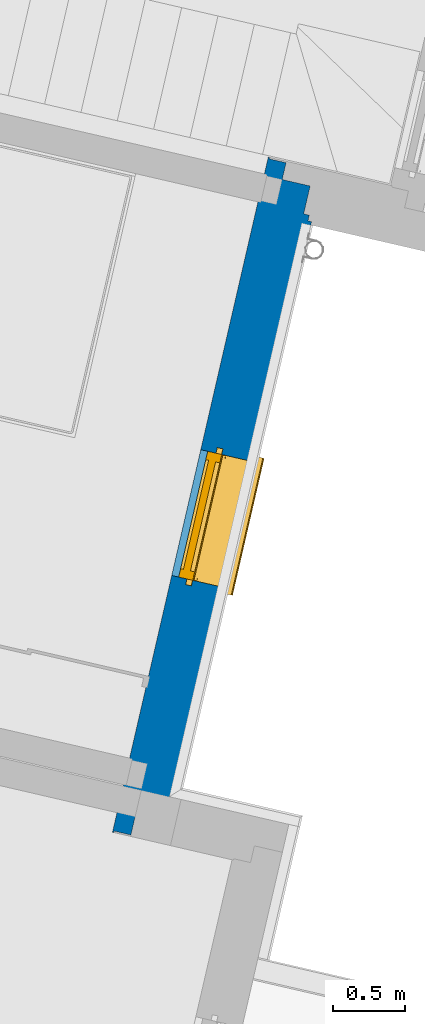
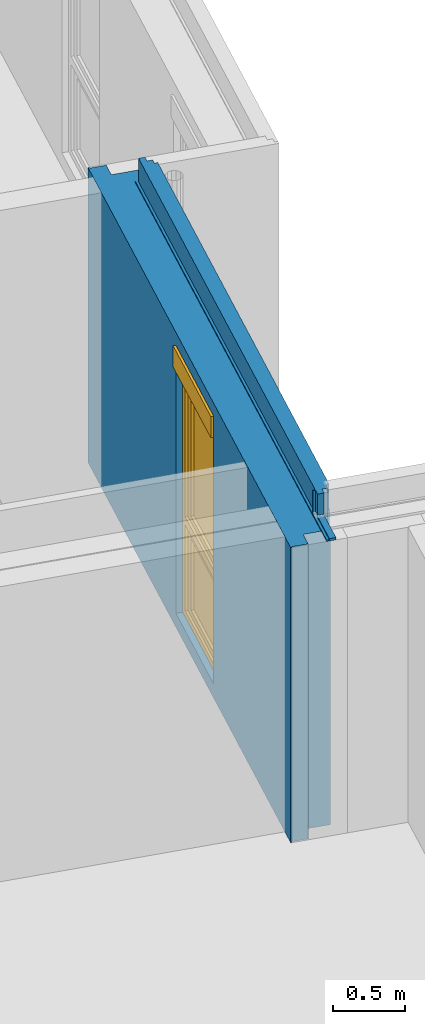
# One storey, part 16 of 62: 1 wall, 1 window, 1 opening.
"""IFC2X3 building model written with IfcOpenShell, lengths in metres."""

from ifc_helpers import new_model, entity, si_unit, converted_unit, derived_unit, money_unit, direction, frame, origin_with_axes, place, context, subcontext, project, spatial, open_shell, faceted_brep, surface_model, source, transform, mapped, material, material_list, type_object, element, fill, save


model = new_model("IFC2X3")

# Units and contexts
model_context = context("Model", 3, precision=1e-05, world=origin_with_axes(), true_north=direction((0.0, 1.0)))
body_context = subcontext(model_context, "Body", "Model", "MODEL_VIEW")
ifc_project = project(units=[si_unit("LENGTHUNIT", "METRE"), si_unit("AREAUNIT", "SQUARE_METRE"), si_unit("VOLUMEUNIT", "CUBIC_METRE"), converted_unit("PLANEANGLEUNIT", "DEGREE", entity("IfcPlaneAngleMeasure", 0.0174532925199), si_unit("PLANEANGLEUNIT", "RADIAN"), dimensions=[0, 0, 0, 0, 0, 0, 0]), si_unit("SOLIDANGLEUNIT", "STERADIAN"), money_unit("EUR"), converted_unit("TIMEUNIT", "Year", entity("IfcTimeMeasure", 31556926.0), si_unit("TIMEUNIT", "SECOND"), dimensions=[0, 0, 1, 0, 0, 0, 0]), si_unit("MASSUNIT", "GRAM", prefix="KILO"), si_unit("THERMODYNAMICTEMPERATUREUNIT", "DEGREE_CELSIUS"), si_unit("LUMINOUSINTENSITYUNIT", "LUMEN"), si_unit("ENERGYUNIT", "JOULE", prefix="MEGA"), derived_unit("THERMALCONDUCTANCEUNIT", [(si_unit("POWERUNIT", "WATT"), 1), (si_unit("LENGTHUNIT", "METRE"), -1), (si_unit("THERMODYNAMICTEMPERATUREUNIT", "KELVIN"), -1)]), derived_unit("SPECIFICHEATCAPACITYUNIT", [(si_unit("ENERGYUNIT", "JOULE"), 1), (si_unit("MASSUNIT", "GRAM", prefix="KILO"), -1), (si_unit("THERMODYNAMICTEMPERATUREUNIT", "KELVIN"), -1)]), derived_unit("MASSDENSITYUNIT", [(si_unit("MASSUNIT", "GRAM", prefix="KILO"), 1), (si_unit("VOLUMEUNIT", "CUBIC_METRE"), -1)])], contexts=[model_context])

# Site, building, storey
site_placement = place(None, origin_with_axes())
site = spatial("IfcSite", under=ifc_project, at=site_placement, Name="Site", CompositionType="ELEMENT")
building_placement = place(site_placement, origin_with_axes())
building = spatial("IfcBuilding", under=site, at=building_placement, Name="Bâtiment", CompositionType="ELEMENT")
storey_placement = place(building_placement, frame((0.0, 0.0, 8.16), z_axis=(0.0, 0.0, 1.0), x_axis=(1.0, 0.0, 0.0)))
storey = spatial("IfcBuildingStorey", under=building, at=storey_placement, Name="R+3", CompositionType="ELEMENT", Elevation=8.16)

# Wall, opening, window
ifc_material_1 = material(Name="Finition ext - Bardage bois")
ifc_material_2 = material(Name="Bois - Lattage")
ifc_material_3 = material(Name="Béton cellulaire")
ifc_material_4 = material(Name="Mortier")
ifc_material_5 = material(Name="Isolation - Polystyrène expansé")
ifc_material_6 = material(Name="Bloc ELITHERM")
ifc_material_7 = material(Name="Isolation - Polystyrène extrudé")
ifc_material_8 = material(Name="Finition int - Plaque de plâtre")
ifc_material_list = material_list([ifc_material_1, ifc_material_2, ifc_material_3, ifc_material_4, ifc_material_5, ifc_material_6, ifc_material_7, ifc_material_8])
wall_type = type_object("IfcWallType", Name="Mur ALKERN + planelle 21 BARDAGE courant 395 x 2720", PredefinedType="USERDEFINED")
wall_placement = place(storey_placement, frame((-1.11213586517, 6.59897523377, 0.0), z_axis=(0.0, 0.0, 1.0), x_axis=(-0.224876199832, -0.974387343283, 0.0)))
wall = element("IfcWall", 1, at=wall_placement, inside=storey, type_object=wall_type, material=ifc_material_list, Name="Mue bloc ALKERN isolé", ObjectType="SOLIDWALL", context=body_context, shape_type="Brep", body=[
    faceted_brep([(1.73344371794, 0.01, 0.12), (1.73344371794, 0.01, 0.06), (1.73344371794, 0.035, 0.06), (1.73344371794, 0.035, 0.12), (1.73344371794, 0.035, 2.22), (1.73344371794, 0.01, 2.22), (0.00999998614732, 0.01, 6.81930956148e-10), (4.10100000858, 0.01, 0.0), (4.10100000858, 0.01, 2.72), (0.00999998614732, 0.01, 2.72), (2.63344371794, 0.01, 2.22), (2.63344371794, 0.01, 0.12), (2.63344371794, 0.01, 0.06), (2.63344371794, 0.035, 0.06), (4.09100005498, 0.035, 2.50999999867), (4.10100000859, 0.035, 2.50999999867), (4.10100000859, 0.035, 0.0), (0.00999998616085, 0.035, 7.28007876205e-10), (0.00999998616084, 0.035, 2.72), (4.09100005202, 0.035, 2.72), (2.63344371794, 0.035, 0.12), (2.63344371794, 0.035, 2.22), (4.10100000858, 0.0200002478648, 2.50999999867), (4.10100000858, 0.0200002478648, 2.72), (4.09100005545, 0.0200002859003, 2.72), (4.09100005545, 0.0200002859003, 2.50999999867)], [[[0, 1, 2, 3, 4, 5]], [[6, 7, 8, 9], [1, 0, 5, 10, 11, 12]], [[13, 2, 1, 12]], [[14, 15, 16, 17, 18, 19], [13, 20, 21, 4, 3, 2]], [[21, 10, 5, 4]], [[7, 6, 17, 16]], [[22, 23, 8, 7, 16, 15]], [[23, 24, 19, 18, 9, 8]], [[18, 17, 6, 9]], [[20, 13, 12, 11, 10, 21]], [[25, 22, 15, 14]], [[24, 25, 14, 19]], [[22, 25, 24, 23]]]),
    faceted_brep([(1.73344371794, -0.0300000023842, 0.12), (1.73344371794, -0.0300000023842, 0.06), (1.73344371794, 0.00999999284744, 0.06), (1.73344371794, 0.00999999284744, 0.12), (1.73344371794, 0.00999999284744, 2.22), (1.73344371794, -0.0300000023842, 2.22), (-0.0300000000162, -0.0300000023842, 6.08208594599e-10), (4.14099999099, -0.0300000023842, 0.0), (4.14099999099, -0.0300000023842, 2.72), (-0.0300000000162, -0.0300000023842, 2.72), (2.63344371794, -0.0300000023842, 2.22), (2.63344371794, -0.0300000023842, 0.12), (2.63344371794, -0.0300000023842, 0.06), (2.63344371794, 0.00999999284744, 0.06), (4.140999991, 0.00999999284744, 0.0), (-0.0299999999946, 0.00999999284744, 6.81930956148e-10), (-0.0299999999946, 0.00999999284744, 2.72), (4.140999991, 0.00999999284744, 2.72), (2.63344371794, 0.00999999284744, 0.12), (2.63344371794, 0.00999999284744, 2.22)], [[[0, 1, 2, 3, 4, 5]], [[6, 7, 8, 9], [1, 0, 5, 10, 11, 12]], [[13, 2, 1, 12]], [[14, 15, 16, 17], [13, 18, 19, 4, 3, 2]], [[19, 10, 5, 4]], [[7, 6, 15, 14]], [[8, 7, 14, 17]], [[17, 16, 9, 8]], [[16, 15, 6, 9]], [[18, 13, 12, 11, 10, 19]]]),
    faceted_brep([(4.18899999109, -0.0779999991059, 2.72), (4.1889999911, -0.03, 2.72), (-0.0780000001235, -0.03, 2.72), (-0.0780000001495, -0.0779999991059, 2.72), (4.1889999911, -0.03, 2.53999999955), (4.18899999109, -0.0779999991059, 2.53999999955), (4.14099999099, -0.03, 2.54), (4.14099999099, -0.03, 2.53), (4.20899999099, -0.03, 2.53), (4.4710000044, -0.03, 2.53000000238), (4.4710000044, -0.03, 2.52000000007), (-0.0780000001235, -0.03, 2.51999999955), (-0.0780000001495, -0.0779999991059, 2.51999999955), (4.4710000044, -0.0779999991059, 2.52000000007), (4.4710000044, -0.0779999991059, 2.53000000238), (4.20899999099, -0.0779999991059, 2.53), (4.14099999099, -0.0779999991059, 2.53), (4.14099999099, -0.0779999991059, 2.54)], [[[0, 1, 2, 3]], [[4, 1, 0, 5]], [[1, 4, 6, 7, 8, 9, 10, 11, 2]], [[3, 2, 11, 12]], [[5, 0, 3, 12, 13, 14, 15, 16, 17]], [[4, 5, 17, 6]], [[7, 6, 17, 16]], [[8, 7, 16, 15]], [[8, 15, 14, 9]], [[13, 10, 9, 14]], [[12, 11, 10, 13]]]),
    faceted_brep([(4.4710000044, -0.098, 2.52000000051), (4.4710000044, -0.03, 2.52000000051), (-0.0980000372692, -0.03, 2.52000002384), (-0.098000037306, -0.098, 2.52000002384), (4.4710000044, -0.03, 2.5100000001), (4.4710000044, -0.098, 2.5100000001), (-0.0980000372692, -0.03, 2.51000000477), (-0.098000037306, -0.098, 2.51000000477)], [[[0, 1, 2, 3]], [[4, 1, 0, 5]], [[1, 4, 6, 2]], [[2, 6, 7, 3]], [[5, 0, 3, 7]], [[4, 5, 7, 6]]]),
    faceted_brep([(4.14099995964, -0.0780000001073, 2.54), (4.1409999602, -0.098000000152, 2.54), (4.1409999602, -0.098000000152, 2.53), (4.14099995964, -0.0780000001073, 2.53), (4.14099995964, -0.0780000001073, 2.72), (4.1409999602, -0.098000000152, 2.72), (4.13099999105, -0.098000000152, 2.72), (4.13099998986, -0.098000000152, 2.52000000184), (4.1409999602, -0.098000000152, 2.52000000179), (4.14099995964, -0.0780000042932, 2.52000000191), (4.13099998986, -0.07800000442, 2.52000000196), (4.13099999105, -0.0780000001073, 2.72)], [[[0, 1, 2, 3]], [[0, 4, 5, 1]], [[1, 5, 6, 7, 8, 2]], [[9, 3, 2, 8]], [[4, 0, 3, 9, 10, 11]], [[5, 4, 11, 6]], [[6, 11, 10, 7]], [[9, 8, 7, 10]]]),
    faceted_brep([(1.73344371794, -0.229999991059, 0.12), (1.73344371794, -0.229999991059, 0.06), (1.73344371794, -0.03, 0.06), (1.73344371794, -0.03, 0.12), (1.73344371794, -0.03, 2.22), (1.73344371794, -0.18, 2.22), (1.73344371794, -0.18, 2.4), (1.73344371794, -0.229999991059, 2.4), (1.73344371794, -0.229999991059, 2.22), (4.34099997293, -0.229999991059, 0.0), (4.34099997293, -0.229999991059, 2.50999999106), (-0.230000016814, -0.229999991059, 2.51000000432), (-0.230000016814, -0.229999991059, 2.39596786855e-10), (2.63344371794, -0.229999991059, 2.4), (2.63344371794, -0.229999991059, 2.22), (2.63344371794, -0.229999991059, 0.12), (2.63344371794, -0.229999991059, 0.06), (2.63344371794, -0.03, 0.06), (4.34099997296, -0.03, 2.50999999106), (4.34099997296, -0.03, 0.0), (-0.230000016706, -0.03, 6.08208594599e-10), (-0.230000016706, -0.03, 2.51000000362), (2.63344371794, -0.03, 0.12), (2.63344371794, -0.03, 2.22), (2.63344371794, -0.18, 2.22), (2.63344371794, -0.18, 2.4), (4.34099997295, -0.0979999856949, 2.50999999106), (-0.230000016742, -0.0979999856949, 2.51000000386)], [[[0, 1, 2, 3, 4, 5, 6, 7, 8]], [[9, 10, 11, 12], [1, 0, 8, 7, 13, 14, 15, 16]], [[17, 2, 1, 16]], [[18, 19, 20, 21], [17, 22, 23, 4, 3, 2]], [[5, 4, 23, 24]], [[24, 25, 6, 5]], [[7, 6, 25, 13]], [[10, 9, 19, 18, 26]], [[10, 26, 27, 11]], [[12, 11, 27, 21, 20]], [[19, 9, 12, 20]], [[22, 17, 16, 15, 14, 13, 25, 24, 23]], [[26, 18, 21, 27]]]),
    faceted_brep([(1.73344371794, -0.251, 0.12), (1.73344371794, -0.251, 0.06), (1.73344371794, -0.230000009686, 0.06), (1.73344371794, -0.230000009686, 0.12), (1.73344371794, -0.230000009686, 2.22), (1.73344371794, -0.230000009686, 2.4), (1.73344371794, -0.350000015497, 2.4), (1.73344371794, -0.350000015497, 2.22), (1.73344371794, -0.350000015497, 0.12), (2.63344371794, -0.251, 0.12), (2.63344371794, -0.251, 0.06), (2.63344371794, -0.230000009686, 0.06), (-0.350000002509, -0.230000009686, 2.39596786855e-10), (-0.350000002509, -0.230000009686, 2.51000000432), (4.46100000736, -0.230000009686, 2.50999999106), (4.46100000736, -0.230000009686, 0.0), (2.63344371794, -0.230000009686, 0.12), (2.63344371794, -0.230000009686, 2.22), (2.63344371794, -0.230000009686, 2.4), (2.63344371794, -0.350000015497, 2.4), (-0.350000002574, -0.350000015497, 2.51000000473), (-0.350000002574, -0.350000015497, 0.0), (4.46100000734, -0.350000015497, 0.0), (4.46100000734, -0.350000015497, 2.50999999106), (2.63344371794, -0.350000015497, 2.22), (2.63344371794, -0.350000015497, 0.12)], [[[0, 1, 2, 3, 4, 5, 6, 7, 8]], [[0, 9, 10, 1]], [[11, 2, 1, 10]], [[12, 13, 14, 15], [11, 16, 17, 18, 5, 4, 3, 2]], [[18, 19, 6, 5]], [[20, 21, 22, 23], [8, 7, 6, 19, 24, 25]], [[9, 0, 8, 25]], [[16, 11, 10, 9, 25, 24, 19, 18, 17]], [[12, 21, 20, 13]], [[13, 20, 23, 14]], [[23, 22, 15, 14]], [[21, 12, 15, 22]]]),
    faceted_brep([(4.47100000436, -0.350000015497, 0.0), (-0.359999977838, -0.350000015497, 0.0), (-0.359999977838, -0.350000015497, 2.51000000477), (4.47100000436, -0.350000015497, 2.5100000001), (2.63344371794, -0.350000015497, 2.22), (2.63344371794, -0.350000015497, 2.4), (1.73344371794, -0.350000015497, 2.4), (1.73344371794, -0.350000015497, 2.22), (1.73344371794, -0.350000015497, 0.12), (2.63344371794, -0.350000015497, 0.12), (4.47100000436, -0.35999998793, 0.0), (-0.359999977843, -0.35999998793, 0.0), (-0.359999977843, -0.35999998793, 2.51000000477), (4.47100000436, -0.35999998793, 2.5100000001), (2.63344371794, -0.35999998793, 2.22), (2.63344371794, -0.35999998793, 2.4), (1.73344371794, -0.35999998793, 2.4), (1.73344371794, -0.35999998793, 2.22), (1.73344371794, -0.35999998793, 0.12), (2.63344371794, -0.35999998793, 0.12)], [[[0, 1, 2, 3], [4, 5, 6, 7, 8, 9]], [[10, 11, 1, 0]], [[2, 1, 11, 12]], [[3, 2, 12, 13]], [[3, 13, 10, 0]], [[5, 4, 14, 15]], [[6, 5, 15, 16]], [[7, 6, 16, 17]], [[7, 17, 18, 8]], [[8, 18, 19, 9]], [[14, 4, 9, 19]], [[13, 12, 11, 10], [15, 14, 19, 18, 17, 16]]]),
])
opening_placement = place(wall_placement, frame((2.18344371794, 0.0, 0.12), z_axis=(0.0, 0.0, 1.0), x_axis=(1.0, 0.0, 0.0)))
opening = element("IfcOpeningElement", 2, at=opening_placement, cuts=wall, Name="MEN 100", context=body_context, shape_type="Brep", body=[
    faceted_brep([(-0.45, -0.21, 0.0), (0.45, -0.21, 0.0), (0.45, -0.84999998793, 0.0), (-0.45, -0.84999998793, 0.0), (-0.45, -0.21, 2.1), (0.45, -0.21, 2.1), (0.45, -0.84999998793, 2.1), (-0.45, -0.84999998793, 2.1)], [[[0, 1, 2, 3]], [[0, 4, 5, 1]], [[1, 5, 6, 2]], [[3, 2, 6, 7]], [[4, 0, 3, 7]], [[5, 4, 7, 6]]]),
    faceted_brep([(-0.45, -0.21, 0.0), (-0.45, -0.21, 2.1), (-0.45, 0.42999998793, 2.1), (-0.45, 0.42999998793, 0.0), (0.45, -0.21, 0.0), (0.45, -0.21, 2.1), (0.45, 0.42999998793, 2.1), (0.45, 0.42999998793, 0.0)], [[[0, 1, 2, 3]], [[0, 4, 5, 1]], [[1, 5, 6, 2]], [[3, 2, 6, 7]], [[4, 0, 3, 7]], [[5, 4, 7, 6]]]),
    faceted_brep([(-0.45, -0.21, 0.0), (-0.45, -0.21, 2.1), (-0.45, 0.42999998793, 2.1), (-0.45, 0.42999998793, 0.0), (0.45, -0.21, 0.0), (0.45, -0.21, 2.1), (0.45, 0.42999998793, 2.1), (0.45, 0.42999998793, 0.0)], [[[0, 1, 2, 3]], [[0, 4, 5, 1]], [[1, 5, 6, 2]], [[3, 2, 6, 7]], [[4, 0, 3, 7]], [[5, 4, 7, 6]]]),
    faceted_brep([(-0.45, -0.18, 2.1), (0.45, -0.18, 2.1), (0.45, -0.81999998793, 2.1), (-0.45, -0.81999998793, 2.1), (-0.45, -0.18, 2.28), (0.45, -0.18, 2.28), (0.45, -0.81999998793, 2.28), (-0.45, -0.81999998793, 2.28)], [[[0, 1, 2, 3]], [[0, 4, 5, 1]], [[1, 5, 6, 2]], [[3, 2, 6, 7]], [[4, 0, 3, 7]], [[5, 4, 7, 6]]]),
    faceted_brep([(-0.45, -0.251, 0.0), (0.45, -0.251, 0.0), (0.45, 0.38899998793, 0.0), (-0.45, 0.38899998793, 0.0), (-0.45, -0.251, -0.06), (0.45, -0.251, -0.06), (0.45, 0.38899998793, -0.06), (-0.45, 0.38899998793, -0.06)], [[[0, 1, 2, 3]], [[0, 4, 5, 1]], [[1, 5, 6, 2]], [[3, 2, 6, 7]], [[4, 0, 3, 7]], [[5, 4, 7, 6]]]),
])
window_style = type_object("IfcWindowStyle", Name="Baie générique 2017 v2", ConstructionType="NOTDEFINED", OperationType="NOTDEFINED", ParameterTakesPrecedence=False, Sizeable=False)
shared_shape = source(origin_with_axes(), body_context, "Body", "SurfaceModel", [
    faceted_brep([(0.45, 0.0, 2.1), (-0.45, 0.0, 2.1), (-0.45, 0.0, 0.0), (0.45, 0.0, 0.0), (-0.39, 0.0, 0.85), (-0.39, 0.0, 2.05), (0.39, 0.0, 2.05), (0.39, 0.0, 0.85), (-0.39, 0.0, 0.78), (0.39, 0.0, 0.78), (0.39, 0.0, 0.05), (-0.39, 0.0, 0.05), (0.45, 0.1, 2.1), (-0.45, 0.1, 2.1), (-0.45, 0.1, 0.0), (0.45, 0.1, 0.0), (-0.39, 0.1, 0.85), (-0.39, 0.1, 2.05), (0.39, 0.1, 2.05), (0.39, 0.1, 0.85), (-0.39, 0.1, 0.78), (0.39, 0.1, 0.78), (0.39, 0.1, 0.05), (-0.39, 0.1, 0.05)], [[[0, 1, 2, 3], [4, 5, 6, 7], [8, 9, 10, 11]], [[1, 0, 12, 13]], [[2, 1, 13, 14]], [[3, 2, 14, 15]], [[0, 3, 15, 12]], [[16, 17, 5, 4]], [[6, 5, 17, 18]], [[7, 6, 18, 19]], [[4, 7, 19, 16]], [[20, 21, 9, 8]], [[21, 22, 10, 9]], [[11, 10, 22, 23]], [[8, 11, 23, 20]], [[14, 13, 12, 15], [16, 19, 18, 17], [20, 23, 22, 21]]]),
    faceted_brep([(-0.39, 0.08, 2.05), (0.39, 0.08, 2.05), (0.39, 0.08, 0.85), (-0.39, 0.08, 0.85), (-0.32, 0.08, 1.98), (-0.32, 0.08, 0.9), (0.32, 0.08, 0.9), (0.32, 0.08, 1.98), (-0.39, 0.03, 2.05), (0.39, 0.03, 2.05), (0.39, 0.03, 0.85), (-0.39, 0.03, 0.85), (-0.32, 0.03, 1.98), (-0.32, 0.03, 0.9), (0.32, 0.03, 0.9), (0.32, 0.03, 1.98)], [[[0, 1, 2, 3], [4, 5, 6, 7]], [[0, 8, 9, 1]], [[9, 10, 2, 1]], [[10, 11, 3, 2]], [[3, 11, 8, 0]], [[4, 12, 13, 5]], [[13, 14, 6, 5]], [[14, 15, 7, 6]], [[7, 15, 12, 4]], [[9, 8, 11, 10], [13, 12, 15, 14]]]),
    surface_model("IfcShellBasedSurfaceModel", [(0.39, 0.08, 0.85), (0.39, 0.08, 2.05), (0.39, 0.055, 2.05), (0.39, 0.055, 0.85)], [open_shell([[[0, 1, 2, 3]]])]),
    surface_model("IfcShellBasedSurfaceModel", [(-0.39, 0.08, 0.85), (-0.39, 0.08, 2.05), (-0.39, 0.055, 2.05), (-0.39, 0.055, 0.85)], [open_shell([[[0, 1, 2, 3]]])]),
    surface_model("IfcShellBasedSurfaceModel", [(0.39, 0.08, 0.85), (-0.39, 0.08, 0.85), (-0.39, 0.055, 0.85), (0.39, 0.055, 0.85)], [open_shell([[[0, 1, 2, 3]]])]),
    surface_model("IfcShellBasedSurfaceModel", [(0.39, 0.08, 2.05), (-0.39, 0.08, 2.05), (-0.39, 0.055, 2.05), (0.39, 0.055, 2.05)], [open_shell([[[0, 1, 2, 3]]])]),
    surface_model("IfcShellBasedSurfaceModel", [(0.39, 0.055, 0.85), (0.39, 0.055, 2.05), (0.39, 0.03, 2.05), (0.39, 0.03, 0.85)], [open_shell([[[0, 1, 2, 3]]])]),
    surface_model("IfcShellBasedSurfaceModel", [(-0.39, 0.055, 0.85), (-0.39, 0.055, 2.05), (-0.39, 0.03, 2.05), (-0.39, 0.03, 0.85)], [open_shell([[[0, 1, 2, 3]]])]),
    surface_model("IfcShellBasedSurfaceModel", [(0.39, 0.055, 0.85), (-0.39, 0.055, 0.85), (-0.39, 0.03, 0.85), (0.39, 0.03, 0.85)], [open_shell([[[0, 1, 2, 3]]])]),
    surface_model("IfcShellBasedSurfaceModel", [(0.39, 0.055, 2.05), (-0.39, 0.055, 2.05), (-0.39, 0.03, 2.05), (0.39, 0.03, 2.05)], [open_shell([[[0, 1, 2, 3]]])]),
    faceted_brep([(0.32, 0.0575, 0.9), (0.32, 0.0525, 0.9), (-0.32, 0.0525, 0.9), (-0.32, 0.0575, 0.9), (0.32, 0.0575, 1.98), (0.32, 0.0525, 1.98), (-0.32, 0.0525, 1.98), (-0.32, 0.0575, 1.98)], [[[0, 1, 2, 3]], [[4, 5, 1, 0]], [[1, 5, 6, 2]], [[3, 2, 6, 7]], [[0, 3, 7, 4]], [[7, 6, 5, 4]]]),
    faceted_brep([(-0.39, 0.08, 0.78), (0.39, 0.08, 0.78), (0.39, 0.08, 0.05), (-0.39, 0.08, 0.05), (-0.32, 0.08, 0.71), (-0.32, 0.08, 0.1), (0.32, 0.08, 0.1), (0.32, 0.08, 0.71), (-0.39, 0.03, 0.78), (0.39, 0.03, 0.78), (0.39, 0.03, 0.05), (-0.39, 0.03, 0.05), (-0.32, 0.03, 0.71), (-0.32, 0.03, 0.1), (0.32, 0.03, 0.1), (0.32, 0.03, 0.71)], [[[0, 1, 2, 3], [4, 5, 6, 7]], [[0, 8, 9, 1]], [[9, 10, 2, 1]], [[10, 11, 3, 2]], [[3, 11, 8, 0]], [[4, 12, 13, 5]], [[13, 14, 6, 5]], [[14, 15, 7, 6]], [[7, 15, 12, 4]], [[9, 8, 11, 10], [13, 12, 15, 14]]]),
    surface_model("IfcShellBasedSurfaceModel", [(0.39, 0.08, 0.05), (0.39, 0.08, 0.78), (0.39, 0.055, 0.78), (0.39, 0.055, 0.05)], [open_shell([[[0, 1, 2, 3]]])]),
    surface_model("IfcShellBasedSurfaceModel", [(-0.39, 0.08, 0.05), (-0.39, 0.08, 0.78), (-0.39, 0.055, 0.78), (-0.39, 0.055, 0.05)], [open_shell([[[0, 1, 2, 3]]])]),
    surface_model("IfcShellBasedSurfaceModel", [(0.39, 0.08, 0.05), (-0.39, 0.08, 0.05), (-0.39, 0.055, 0.05), (0.39, 0.055, 0.05)], [open_shell([[[0, 1, 2, 3]]])]),
    surface_model("IfcShellBasedSurfaceModel", [(0.39, 0.08, 0.78), (-0.39, 0.08, 0.78), (-0.39, 0.055, 0.78), (0.39, 0.055, 0.78)], [open_shell([[[0, 1, 2, 3]]])]),
    surface_model("IfcShellBasedSurfaceModel", [(0.39, 0.055, 0.05), (0.39, 0.055, 0.78), (0.39, 0.03, 0.78), (0.39, 0.03, 0.05)], [open_shell([[[0, 1, 2, 3]]])]),
    surface_model("IfcShellBasedSurfaceModel", [(-0.39, 0.055, 0.05), (-0.39, 0.055, 0.78), (-0.39, 0.03, 0.78), (-0.39, 0.03, 0.05)], [open_shell([[[0, 1, 2, 3]]])]),
    surface_model("IfcShellBasedSurfaceModel", [(0.39, 0.055, 0.05), (-0.39, 0.055, 0.05), (-0.39, 0.03, 0.05), (0.39, 0.03, 0.05)], [open_shell([[[0, 1, 2, 3]]])]),
    surface_model("IfcShellBasedSurfaceModel", [(0.39, 0.055, 0.78), (-0.39, 0.055, 0.78), (-0.39, 0.03, 0.78), (0.39, 0.03, 0.78)], [open_shell([[[0, 1, 2, 3]]])]),
    faceted_brep([(0.32, 0.0575, 0.1), (0.32, 0.0525, 0.1), (-0.32, 0.0525, 0.1), (-0.32, 0.0575, 0.1), (0.32, 0.0575, 0.71), (0.32, 0.0525, 0.71), (-0.32, 0.0525, 0.71), (-0.32, 0.0575, 0.71)], [[[0, 1, 2, 3]], [[4, 5, 1, 0]], [[1, 5, 6, 2]], [[3, 2, 6, 7]], [[0, 3, 7, 4]], [[7, 6, 5, 4]]]),
    faceted_brep([(0.45, -0.03, 0.0), (0.45, -0.03, 2.1), (0.425, -0.03, 2.1), (0.425, -0.03, 0.0), (0.45, -0.002, 0.0), (0.45, -0.002, 2.1), (0.425, -0.002, 2.1), (0.425, -0.004, 2.1), (0.448, -0.004, 2.1), (0.448, -0.028, 2.1), (0.425, -0.028, 2.1), (0.425, -0.028, 0.0), (0.448, -0.028, 0.0), (0.448, -0.004, 0.0), (0.425, -0.004, 0.0), (0.425, -0.002, 0.0)], [[[0, 1, 2, 3]], [[4, 5, 1, 0]], [[1, 5, 6, 7, 8, 9, 10, 2]], [[3, 2, 10, 11]], [[0, 3, 11, 12, 13, 14, 15, 4]], [[15, 6, 5, 4]], [[14, 7, 6, 15]], [[13, 8, 7, 14]], [[12, 9, 8, 13]], [[11, 10, 9, 12]]]),
    faceted_brep([(-0.45, -0.03, 0.0), (-0.425, -0.03, 0.0), (-0.425, -0.03, 2.1), (-0.45, -0.03, 2.1), (-0.45, -0.002, 0.0), (-0.425, -0.002, 0.0), (-0.425, -0.004, 0.0), (-0.448, -0.004, 0.0), (-0.448, -0.028, 0.0), (-0.425, -0.028, 0.0), (-0.425, -0.028, 2.1), (-0.448, -0.028, 2.1), (-0.448, -0.004, 2.1), (-0.425, -0.004, 2.1), (-0.425, -0.002, 2.1), (-0.45, -0.002, 2.1)], [[[0, 1, 2, 3]], [[0, 4, 5, 6, 7, 8, 9, 1]], [[1, 9, 10, 2]], [[3, 2, 10, 11, 12, 13, 14, 15]], [[4, 0, 3, 15]], [[5, 4, 15, 14]], [[6, 5, 14, 13]], [[7, 6, 13, 12]], [[8, 7, 12, 11]], [[9, 8, 11, 10]]]),
    faceted_brep([(-0.448, -0.028, 2.1), (-0.448, -0.028, 2.278), (0.448, -0.028, 2.278), (0.448, -0.028, 2.1), (-0.448, -0.03, 2.1), (-0.448, -0.03, 2.28), (-0.448, 0.17, 2.28), (-0.448, 0.17, 2.1), (-0.448, 0.168, 2.1), (-0.448, 0.168, 2.278), (0.448, 0.168, 2.278), (0.448, 0.168, 2.1), (0.448, 0.17, 2.1), (0.448, 0.17, 2.28), (0.448, -0.03, 2.28), (0.448, -0.03, 2.1)], [[[0, 1, 2, 3]], [[0, 4, 5, 6, 7, 8, 9, 1]], [[1, 9, 10, 2]], [[3, 2, 10, 11, 12, 13, 14, 15]], [[4, 0, 3, 15]], [[5, 4, 15, 14]], [[6, 5, 14, 13]], [[7, 6, 13, 12]], [[8, 7, 12, 11]], [[9, 8, 11, 10]]]),
    faceted_brep([(-0.448, 0.0724697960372, 2.17436337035), (-0.448, 0.0555495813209, 2.17050144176), (-0.448, 0.041980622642, 2.18132232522), (-0.448, 0.041980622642, 2.19867767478), (-0.448, 0.0555495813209, 2.20949855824), (-0.448, 0.0724697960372, 2.20563662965), (-0.448, 0.08, 2.19), (0.448, 0.0724697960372, 2.17436337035), (0.448, 0.0555495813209, 2.17050144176), (0.448, 0.041980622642, 2.18132232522), (0.448, 0.041980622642, 2.19867767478), (0.448, 0.0555495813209, 2.20949855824), (0.448, 0.0724697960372, 2.20563662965), (0.448, 0.08, 2.19)], [[[0, 1, 2, 3, 4, 5, 6]], [[1, 0, 7, 8]], [[2, 1, 8, 9]], [[3, 2, 9, 10]], [[4, 3, 10, 11]], [[5, 4, 11, 12]], [[6, 5, 12, 13]], [[0, 6, 13, 7]], [[7, 13, 12, 11, 10, 9, 8]]]),
    faceted_brep([(-0.438, 0.130275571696, 2.15615706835), (-0.438, 0.108632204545, 2.12901714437), (-0.438, 0.0773566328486, 2.11395562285), (-0.438, 0.0426433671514, 2.11395562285), (-0.438, 0.011367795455, 2.12901714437), (-0.438, -0.0102755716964, 2.15615706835), (-0.438, -0.018, 2.19), (-0.438, -0.0102755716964, 2.22384293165), (-0.438, 0.011367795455, 2.25098285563), (-0.438, 0.0426433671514, 2.26604437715), (-0.438, 0.0773566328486, 2.26604437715), (-0.438, 0.108632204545, 2.25098285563), (-0.438, 0.130275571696, 2.22384293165), (-0.438, 0.138, 2.19), (0.438, 0.130275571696, 2.15615706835), (0.438, 0.108632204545, 2.12901714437), (0.438, 0.0773566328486, 2.11395562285), (0.438, 0.0426433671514, 2.11395562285), (0.438, 0.011367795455, 2.12901714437), (0.438, -0.0102755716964, 2.15615706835), (0.438, -0.018, 2.19), (0.438, -0.0102755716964, 2.22384293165), (0.438, 0.011367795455, 2.25098285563), (0.438, 0.0426433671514, 2.26604437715), (0.438, 0.0773566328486, 2.26604437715), (0.438, 0.108632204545, 2.25098285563), (0.438, 0.130275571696, 2.22384293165), (0.438, 0.138, 2.19)], [[[0, 1, 2, 3, 4, 5, 6, 7, 8, 9, 10, 11, 12, 13]], [[1, 0, 14, 15]], [[2, 1, 15, 16]], [[3, 2, 16, 17]], [[4, 3, 17, 18]], [[5, 4, 18, 19]], [[6, 5, 19, 20]], [[7, 6, 20, 21]], [[8, 7, 21, 22]], [[9, 8, 22, 23]], [[10, 9, 23, 24]], [[11, 10, 24, 25]], [[12, 11, 25, 26]], [[13, 12, 26, 27]], [[0, 13, 27, 14]], [[14, 27, 26, 25, 24, 23, 22, 21, 20, 19, 18, 17, 16, 15]]]),
    faceted_brep([(-0.45, 0.17, 2.1), (-0.45, 0.17, 2.28), (-0.448, 0.17, 2.28), (-0.448, 0.17, 2.1), (-0.45, -0.03, 2.1), (-0.45, -0.03, 2.28), (-0.448, -0.03, 2.28), (-0.448, -0.03, 2.1)], [[[0, 1, 2, 3]], [[0, 4, 5, 1]], [[1, 5, 6, 2]], [[3, 2, 6, 7]], [[4, 0, 3, 7]], [[5, 4, 7, 6]]]),
    faceted_brep([(0.448, 0.17, 2.1), (0.448, 0.17, 2.28), (0.45, 0.17, 2.28), (0.45, 0.17, 2.1), (0.448, -0.03, 2.1), (0.448, -0.03, 2.28), (0.45, -0.03, 2.28), (0.45, -0.03, 2.1)], [[[0, 1, 2, 3]], [[0, 4, 5, 1]], [[1, 5, 6, 2]], [[3, 2, 6, 7]], [[4, 0, 3, 7]], [[5, 4, 7, 6]]]),
    faceted_brep([(-0.448, -0.004, 2.1), (-0.448, 0.168, 2.1), (0.448, 0.168, 2.1), (0.448, -0.004, 2.1), (-0.448, -0.004, 2.102), (-0.448, 0.168, 2.102), (0.448, 0.168, 2.102), (0.448, -0.004, 2.102)], [[[0, 1, 2, 3]], [[0, 4, 5, 1]], [[1, 5, 6, 2]], [[3, 2, 6, 7]], [[4, 0, 3, 7]], [[5, 4, 7, 6]]]),
    faceted_brep([(-0.438, -0.006, 2.1), (-0.438, -0.006, 2.19), (0.438, -0.006, 2.19), (0.438, -0.006, 2.1), (-0.438, -0.026, 2.1), (-0.438, -0.026, 2.19), (0.438, -0.026, 2.19), (0.438, -0.026, 2.1)], [[[0, 1, 2, 3]], [[1, 0, 4, 5]], [[2, 1, 5, 6]], [[3, 2, 6, 7]], [[4, 0, 3, 7]], [[5, 4, 7, 6]]]),
    faceted_brep([(-0.45, -0.00167949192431, -0.01), (0.45, -0.00167949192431, -0.01), (0.45, 0.0, -0.00373205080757), (0.49, 0.0, -0.00373205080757), (0.49, 0.001, 0.0), (-0.49, 0.001, 0.0), (-0.49, 0.0, -0.00373205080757), (-0.45, 0.0, -0.00373205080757), (-0.45, -0.009, -0.0173205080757), (0.45, -0.009, -0.0173205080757), (0.45, -0.245, -0.02), (0.45, -0.245, -0.06), (0.45, 0.0, -0.06), (0.45, -0.019, -0.02), (0.49, 0.0, -0.06), (0.49, 0.041, -0.06), (0.49, 0.041, 0.0), (-0.49, 0.041, 0.0), (-0.49, 0.041, -0.06), (-0.49, 0.0, -0.06), (-0.45, 0.0, -0.06), (-0.45, -0.245, -0.06), (-0.45, -0.245, -0.02), (-0.45, -0.019, -0.02), (0.49, -0.245, -0.02), (0.49, -0.245, -0.06), (0.49, -0.275, -0.06), (-0.49, -0.275, -0.06), (-0.49, -0.245, -0.06), (-0.49, -0.245, -0.02), (-0.49, -0.285, -0.02), (0.49, -0.285, -0.02), (0.49, -0.295, -0.03), (0.49, -0.295, -0.06), (0.49, -0.285, -0.06), (0.49, -0.285, -0.05), (0.49, -0.275, -0.05), (0.49, -0.292071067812, -0.0229289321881), (-0.49, -0.275, -0.05), (-0.49, -0.285, -0.05), (-0.49, -0.285, -0.06), (-0.49, -0.295, -0.06), (-0.49, -0.295, -0.03), (-0.49, -0.292071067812, -0.0229289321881)], [[[0, 1, 2, 3, 4, 5, 6, 7]], [[8, 9, 1, 0]], [[10, 11, 12, 2, 1, 9, 13]], [[3, 2, 12, 14]], [[4, 3, 14, 15, 16]], [[16, 17, 5, 4]], [[6, 5, 17, 18, 19]], [[19, 20, 7, 6]], [[7, 20, 21, 22, 23, 8, 0]], [[23, 13, 9, 8]], [[10, 24, 25, 11]], [[21, 20, 19, 18, 15, 14, 12, 11, 25, 26, 27, 28]], [[22, 29, 30, 31, 24, 10, 13, 23]], [[15, 18, 17, 16]], [[22, 21, 28, 29]], [[32, 33, 34, 35, 36, 26, 25, 24, 31, 37]], [[36, 38, 27, 26]], [[28, 27, 38, 39, 40, 41, 42, 43, 30, 29]], [[31, 30, 43, 37]], [[32, 42, 41, 33]], [[33, 41, 40, 34]], [[34, 40, 39, 35]], [[35, 39, 38, 36]], [[37, 43, 42, 32]]]),
])
window_placement = place(opening_placement, frame((0.45, 0.0, 0.0), z_axis=(0.0, 0.0, 1.0), x_axis=(-1.0, 0.0, 0.0)))
window = element("IfcWindow", 3, at=window_placement, inside=storey, type_object=window_style, Name="MEN 100", ObjectType="WINDOW", OverallHeight=2.1, OverallWidth=0.9, context=body_context, shape_type="MappedRepresentation", body=[
    mapped(shared_shape, transform((0.45, 0.21, 0.0))),
])
fill(opening, window)

save(model, "model.ifc")
